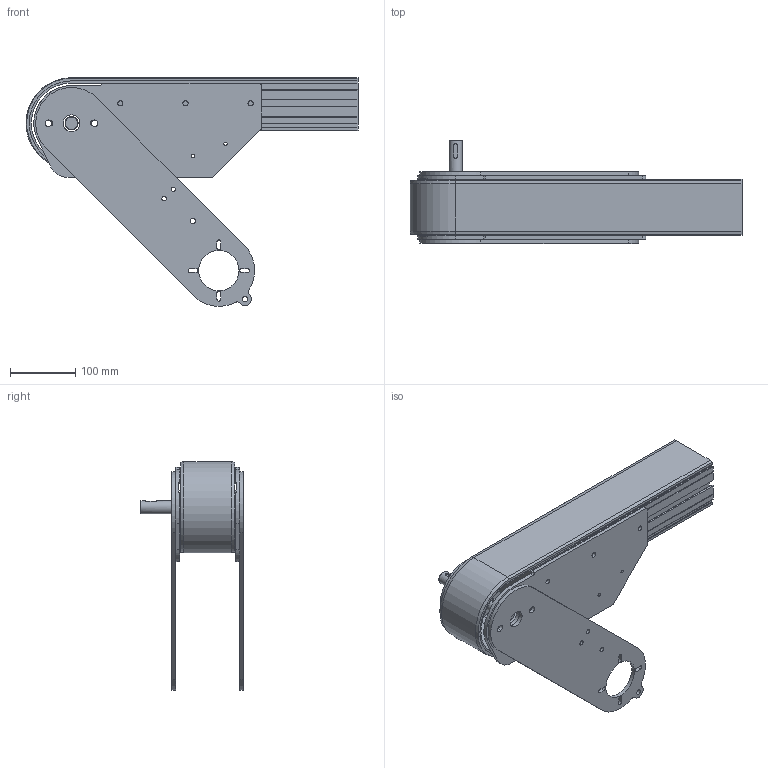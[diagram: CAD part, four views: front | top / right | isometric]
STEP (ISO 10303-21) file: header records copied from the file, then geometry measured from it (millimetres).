
FILE_DESCRIPTION((''),'2;1');
FILE_NAME('C:\Vault Klient\Projekt\Koncept konstruktion\Serie 830 Drivenhet\830-325H.stp','2010-05-24T15:43:25',('Mathias'),(''),'Autodesk Inventor 2010','Autodesk Inventor 2010','');
FILE_SCHEMA(('CONFIG_CONTROL_DESIGN'));
Length unit declared in the file: millimetre
Products named in the file (4): 830-325H; Serie 830 Drivände; 900-3120; 13270
Assembly tree (4 placements, depth 2):
  830-325H
    Serie 830 Drivände
    900-3120  x2
    13270
Bounding box: 509.96 x 158 x 351.27 mm (x, y, z)
Volume: 3995302.3 mm3; surface area: 596540.4 mm2
Topology: 4 solids, 4 shells, 236 faces, 692 edges, 450 vertices
Faces by surface type: plane 134, cylinder 92, cone 6, bspline 4
Full cylindrical faces by diameter (mm): 6.912 x4, 8 x10, 10 x4, 20 x2, 26 x4, 62 x2
Entity records: 6942 total; most frequent: CARTESIAN_POINT 1285, ORIENTED_EDGE 1106, DIRECTION 1101, EDGE_CURVE 553, VECTOR 385, LINE 385, VERTEX_POINT 374, AXIS2_PLACEMENT_3D 358
